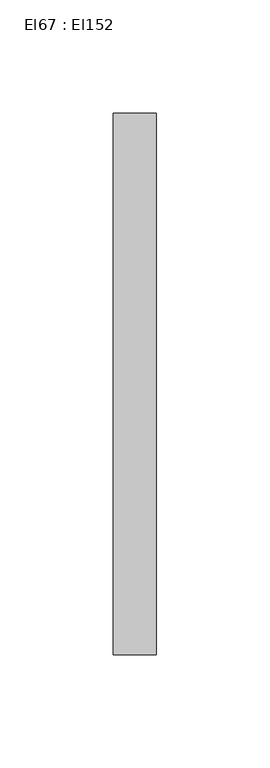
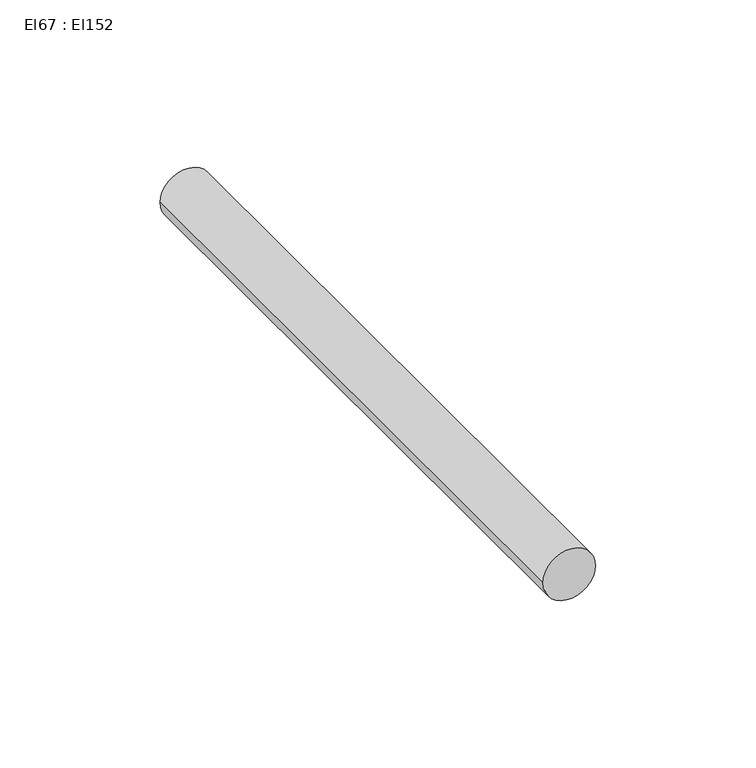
"""IFC4 building model written with IfcOpenShell, lengths in millimetres: cable carrier segment geometry, El67 : El152."""

import ifcopenshell
import ifcopenshell.guid

model = None  # the IFC model being written
_history = None  # IfcOwnerHistory: only IFC2X3 demands one
_inside = {}  # id of a spatial element -> (the spatial element, [elements in it])
_under = {}  # id of a project, library or spatial element -> (it, [spatial elements below it])
_declared = {}  # id of a project -> (the project, [libraries it declares])
_typed = {}  # id of a type object -> (the type object, [elements of that type])
_made_of = {}  # id of a material, layer set ... -> (it, [elements and type objects made of it])


def new_model(schema):
    """Start an empty IFC model of exactly this schema.

    Asked for "IFC4X3", IfcOpenShell would pick the latest addendum, in which some entities
    have other attributes; the version numbers below select the first issue.
    IFC2X3 requires an IfcOwnerHistory on every rooted entity: one is made here for all.
    """
    global model, _history
    if schema == "IFC4X3":
        model = ifcopenshell.file(schema_version=(4, 3, 0, 0))
    else:
        model = ifcopenshell.file(schema=schema)
    _inside.clear()
    _under.clear()
    _declared.clear()
    _typed.clear()
    _made_of.clear()
    _history = None
    if model.schema == "IFC2X3":
        org = make("IfcOrganization", Name="unknown")
        user = make(
            "IfcPersonAndOrganization",
            ThePerson=make("IfcPerson", FamilyName="unknown"),
            TheOrganization=org,
        )
        app = make(
            "IfcApplication",
            ApplicationDeveloper=org,
            Version="unknown",
            ApplicationFullName="unknown",
            ApplicationIdentifier="unknown",
        )
        _history = make(
            "IfcOwnerHistory",
            OwningUser=user,
            OwningApplication=app,
            ChangeAction="ADDED",
            CreationDate=0,
        )
    return model


def make(cls, **values):
    """One entity of the class cls with the attributes given. An attribute that is None is left unset."""
    return model.create_entity(
        cls, **{name: value for name, value in values.items() if value is not None}
    )


def rooted(cls, **values):
    """An entity with a GlobalId (a new one), such as an element, a storey or a relation."""
    return make(cls, GlobalId=ifcopenshell.guid.new(), OwnerHistory=_history, **values)


def si_unit(unit_type, name, prefix=None):
    """IfcSIUnit, for example si_unit("LENGTHUNIT", "METRE", prefix="MILLI")."""
    return make("IfcSIUnit", UnitType=unit_type, Prefix=prefix, Name=name)


def assignment(units):
    """IfcUnitAssignment: the units of a project."""
    return None if units is None else make("IfcUnitAssignment", Units=units)


def point(xyz):
    """IfcCartesianPoint."""
    return None if xyz is None else make("IfcCartesianPoint", Coordinates=xyz)


def direction(xyz):
    """IfcDirection."""
    return None if xyz is None else make("IfcDirection", DirectionRatios=xyz)


def frame(location, z_axis=None, x_axis=None):
    """IfcAxis2Placement3D, a coordinate frame: its origin and axes. An axis left out is left unset."""
    return make(
        "IfcAxis2Placement3D",
        Location=point(location),
        Axis=direction(z_axis),
        RefDirection=direction(x_axis),
    )


def frame_2d(location, x_axis=None):
    """IfcAxis2Placement2D, a coordinate frame in the plane: its origin and x axis."""
    return make(
        "IfcAxis2Placement2D", Location=point(location), RefDirection=direction(x_axis)
    )


def origin():
    """The frame at (0, 0, 0) with its axes left unset."""
    return frame((0.0, 0.0, 0.0))


def place(relative_to, where):
    """IfcLocalPlacement: puts the frame where relative to a parent placement (None: the world)."""
    return make(
        "IfcLocalPlacement", PlacementRelTo=relative_to, RelativePlacement=where
    )


def context(
    kind, dimensions, precision=None, world=None, true_north=None, identifier=None
):
    """IfcGeometricRepresentationContext, for example the 3D "Model" context."""
    return make(
        "IfcGeometricRepresentationContext",
        ContextIdentifier=identifier,
        ContextType=kind,
        CoordinateSpaceDimension=dimensions,
        Precision=precision,
        WorldCoordinateSystem=world,
        TrueNorth=true_north,
    )


def project(units=None, contexts=None):
    """IfcProject with its units and contexts."""
    return rooted(
        "IfcProject",
        Name="project",
        RepresentationContexts=contexts,
        UnitsInContext=assignment(units),
    )


def spatial(cls, under=None, at=None, **own):
    """A site, building, storey or space (cls), placed at a placement, below another one or the project."""
    s = rooted(cls, ObjectPlacement=at, **own)
    if under is not None:
        _under.setdefault(under.id(), (under, []))[1].append(s)
    return s


def circle_curve(where, radius):
    """IfcCircle in the frame where."""
    return make("IfcCircle", Position=where, Radius=radius)


def trimmed(basis, trim1, trim2, sense, master):
    """IfcTrimmedCurve: the piece of a basis curve between two trims."""
    return make(
        "IfcTrimmedCurve",
        BasisCurve=basis,
        Trim1=trim1,
        Trim2=trim2,
        SenseAgreement=sense,
        MasterRepresentation=master,
    )


def segment(curve, same_sense, transition):
    """IfcCompositeCurveSegment."""
    return make(
        "IfcCompositeCurveSegment",
        Transition=transition,
        SameSense=same_sense,
        ParentCurve=curve,
    )


def composite_curve(segments, self_intersect=None):
    """IfcCompositeCurve: segments joined end to end."""
    return make("IfcCompositeCurve", Segments=segments, SelfIntersect=self_intersect)


def outline(outer, holes=None, kind="AREA"):
    """IfcArbitraryClosedProfileDef: a profile drawn as a closed curve; with holes, ...WithVoids."""
    if holes is None:
        return make("IfcArbitraryClosedProfileDef", ProfileType=kind, OuterCurve=outer)
    return make(
        "IfcArbitraryProfileDefWithVoids",
        ProfileType=kind,
        OuterCurve=outer,
        InnerCurves=holes,
    )


def extrude(swept, where, along, depth):
    """IfcExtrudedAreaSolid: the profile swept, set in the frame where, extruded along a direction by depth."""
    return make(
        "IfcExtrudedAreaSolid",
        SweptArea=swept,
        Position=where,
        ExtrudedDirection=direction(along),
        Depth=depth,
    )


def shape(context_of_items, identifier, shape_type, items):
    """IfcShapeRepresentation: the items that make up one representation, for example the "Body"."""
    return make(
        "IfcShapeRepresentation",
        ContextOfItems=context_of_items,
        RepresentationIdentifier=identifier,
        RepresentationType=shape_type,
        Items=items,
    )


def source(mapping_origin, context_of_items, identifier, shape_type, items):
    """IfcRepresentationMap: a shape defined once, which mapped items show again and again."""
    return make(
        "IfcRepresentationMap",
        MappingOrigin=mapping_origin,
        MappedRepresentation=shape(context_of_items, identifier, shape_type, items),
    )


def transform(
    local_origin,
    x_axis=None,
    y_axis=None,
    z_axis=None,
    scale=None,
    scale2=None,
    scale3=None,
    uniform=True,
):
    """IfcCartesianTransformationOperator3D, or its non-uniform kind. x_axis, y_axis, z_axis: its Axis1, 2, 3."""
    if uniform:
        return make(
            "IfcCartesianTransformationOperator3D",
            Axis1=direction(x_axis),
            Axis2=direction(y_axis),
            LocalOrigin=point(local_origin),
            Scale=scale,
            Axis3=direction(z_axis),
        )
    return make(
        "IfcCartesianTransformationOperator3DnonUniform",
        Axis1=direction(x_axis),
        Axis2=direction(y_axis),
        LocalOrigin=point(local_origin),
        Scale=scale,
        Axis3=direction(z_axis),
        Scale2=scale2,
        Scale3=scale3,
    )


def mapped(mapping_source, mapping_target):
    """IfcMappedItem: shows the shape of a source again, moved by a transform."""
    return make(
        "IfcMappedItem", MappingSource=mapping_source, MappingTarget=mapping_target
    )


def made_of(thing, what):
    """Note that an element or type object is made of a material, layer set ...; save() writes the relation."""
    if what is not None:
        _made_of.setdefault(what.id(), (what, []))[1].append(thing)
    return thing


def element(
    cls,
    number,
    at=None,
    inside=None,
    cuts=None,
    type_object=None,
    material=None,
    context=None,
    identifier="Body",
    shape_type=None,
    held_by="IfcProductDefinitionShape",
    body=None,
    shapes=None,
    **own,
):
    """One element of the class cls, such as IfcWall. Its Tag is "e" and its number.

    at: its placement. inside: the storey or other place that contains it. cuts: it is an
    opening in that element (IfcRelVoidsElement). A single representation is given by context,
    identifier, shape_type and body (its items); several are given by shapes. held_by: the class
    of the entity that holds the representations. save() writes the other relations.
    """
    e = rooted(cls, Tag="e%d" % number, ObjectPlacement=at, **own)
    if body is not None:
        shapes = [shape(context, identifier, shape_type, body)]
    if shapes is not None:
        e.Representation = make(held_by, Representations=shapes)
    if inside is not None:
        _inside.setdefault(inside.id(), (inside, []))[1].append(e)
    if cuts is not None:
        rooted(
            "IfcRelVoidsElement", RelatingBuildingElement=cuts, RelatedOpeningElement=e
        )
    if type_object is not None:
        _typed.setdefault(type_object.id(), (type_object, []))[1].append(e)
    return made_of(e, material)


def aggregate(whole, parts):
    """IfcRelAggregates: a whole, such as a stair, and the parts it consists of."""
    return rooted("IfcRelAggregates", RelatingObject=whole, RelatedObjects=parts)


def save(model, path):
    """Write the relations noted so far, then the file.

    IfcRelAggregates (storeys below a building ...), IfcRelContainedInSpatialStructure (elements
    in a storey), IfcRelDefinesByType, IfcRelAssociatesMaterial and IfcRelDeclares: one each for
    every whole, place, type object, material and project.
    """
    for whole, parts in _under.values():
        aggregate(whole, parts)
    for where, things in _inside.values():
        rooted(
            "IfcRelContainedInSpatialStructure",
            RelatedElements=things,
            RelatingStructure=where,
        )
    for kind, things in _typed.values():
        rooted("IfcRelDefinesByType", RelatedObjects=things, RelatingType=kind)
    for what, things in _made_of.values():
        rooted("IfcRelAssociatesMaterial", RelatedObjects=things, RelatingMaterial=what)
    for by, libraries in _declared.values():
        rooted("IfcRelDeclares", RelatingContext=by, RelatedDefinitions=libraries)
    model.write(path)


def el67_el152_cc463a7e(model_context):
    return source(origin(), model_context, "Body", "SweptSolid", [
        extrude(outline(composite_curve([segment(trimmed(circle_curve(frame_2d((1800.0, 19844.4746511)), 9.5), [point((1800.0, 19834.9746511))], [point((1800.0, 19853.9746511))], False, "CARTESIAN"), True, "CONTINUOUS"), segment(trimmed(circle_curve(frame_2d((1800.0, 19844.4746511)), 9.5), [point((1800.0, 19853.9746511))], [point((1800.0, 19834.9746511))], False, "CARTESIAN"), True, "CONTINUOUS")], self_intersect=False)), frame((0.0, 1731.5871745, 0.0), z_axis=(0.0, 1.0, 0.0), x_axis=(0.0, 0.0, 1.0)), (0.0, 0.0, 1.0), 239.05),
    ])


if __name__ == "__main__":
    model = new_model("IFC4")
    model_context = context("Model", 3, world=origin())
    ifc_project = project(units=[si_unit("LENGTHUNIT", "METRE", prefix="MILLI")], contexts=[model_context])
    site = spatial("IfcSite", under=ifc_project)
    building = spatial("IfcBuilding", under=site)
    placement = place(None, origin())
    el67_el152_shape = el67_el152_cc463a7e(model_context)
    element("IfcCableCarrierSegment", 1, ObjectType="El67 : El152", at=placement, inside=building, context=model_context, shape_type="MappedRepresentation", body=[
        mapped(el67_el152_shape, transform((0.0, 0.0, 0.0), x_axis=(1.0, 0.0, 0.0), y_axis=(0.0, 1.0, 0.0), z_axis=(0.0, 0.0, 1.0))),
    ])
    save(model, "model.ifc")
